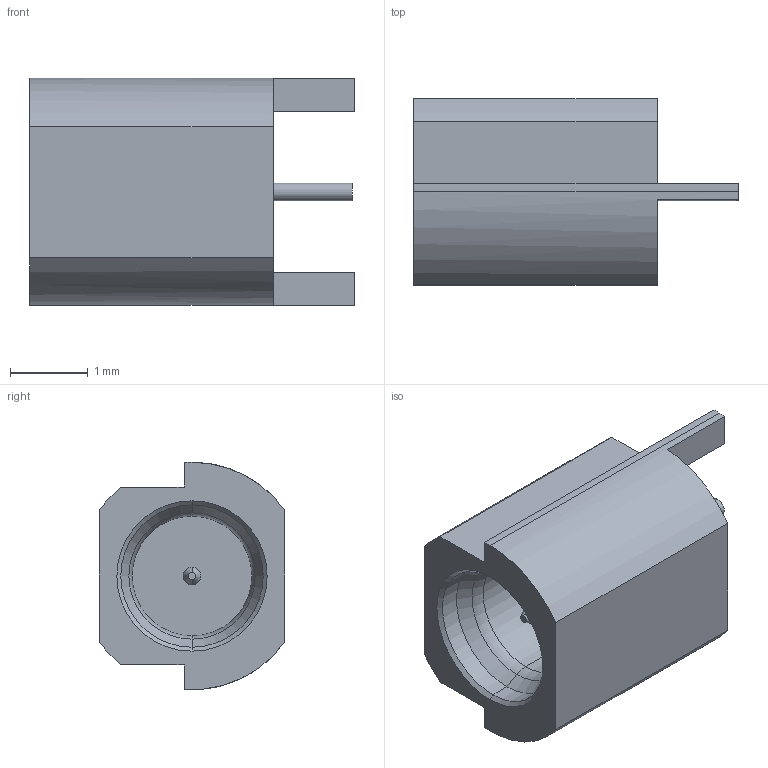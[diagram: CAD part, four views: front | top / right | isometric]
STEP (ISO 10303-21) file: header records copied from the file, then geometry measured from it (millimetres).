
FILE_DESCRIPTION (( 'STEP AP214' ), '1' );
FILE_NAME ('3811-40004.STEP', '2015-07-29T17:58:46', ( 'image' ), ( '' ), 'SwSTEP 2.0', 'SolidWorks 2014', '' );
FILE_SCHEMA (( 'AUTOMOTIVE_DESIGN' ));
Length unit declared in the file: inch
Products named in the file (1): 3811-40004
Bounding box: 4.17 x 2.39 x 2.92 mm (x, y, z)
Volume: 15.5 mm3; surface area: 50.5 mm2
Topology: 1 solids, 1 shells, 41 faces, 95 edges, 60 vertices
Faces by surface type: plane 18, cylinder 13, cone 8, torus 2
Entity records: 1729 total; most frequent: DIRECTION 219, CARTESIAN_POINT 197, ORIENTED_EDGE 190, EDGE_CURVE 95, AXIS2_PLACEMENT_3D 82, VERTEX_POINT 60, LINE 55, VECTOR 55
